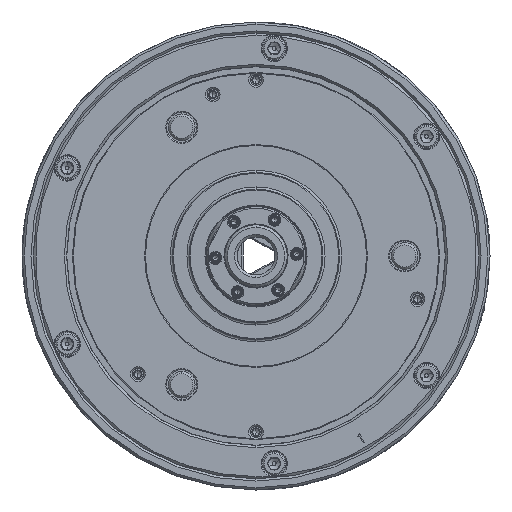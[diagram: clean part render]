
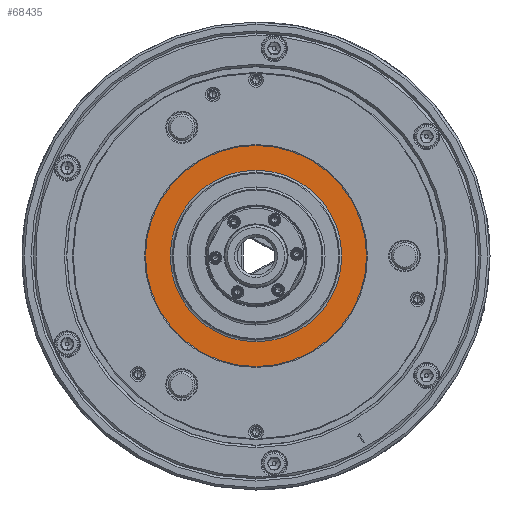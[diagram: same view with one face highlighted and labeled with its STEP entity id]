
A CAD part, left-side view. The second image highlights one B-rep face of the part: STEP entity #68435.
In plain terms, the highlighted planar face has unit normal (-1, 0, 0) as drawn and (0, 0, -1) by its records, which use the part's own axes.
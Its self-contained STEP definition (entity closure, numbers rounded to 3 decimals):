
#19212 = CARTESIAN_POINT ( 'NONE',  ( 0., 0., -104.8 ) ) ;
#21460 = VERTEX_POINT ( 'NONE', #107401 ) ;
#24448 = DIRECTION ( 'NONE',  ( 1., 0., 0. ) ) ;
#24775 = AXIS2_PLACEMENT_3D ( 'NONE', #96357, #47530, #179574 ) ;
#35657 = CARTESIAN_POINT ( 'NONE',  ( 49.616, 0., -104.8 ) ) ;
#35798 = ORIENTED_EDGE ( 'NONE', *, *, #157604, .F. ) ;
#47530 = DIRECTION ( 'NONE',  ( 0., 0., -1. ) ) ;
#54550 = CARTESIAN_POINT ( 'NONE',  ( 0., 0., -104.8 ) ) ;
#58001 = CIRCLE ( 'NONE', #135867, 49.616 ) ;
#63780 = CIRCLE ( 'NONE', #24775, 49.616 ) ;
#68435 = ADVANCED_FACE ( 'NONE', ( #209688, #139862 ), #122131, .F. ) ;
#81202 = EDGE_LOOP ( 'NONE', ( #35798, #214762 ) ) ;
#86930 = DIRECTION ( 'NONE',  ( 0., 0., -1. ) ) ;
#96357 = CARTESIAN_POINT ( 'NONE',  ( 0., 0., -104.8 ) ) ;
#96743 = CIRCLE ( 'NONE', #132191, 38.5 ) ;
#107226 = ORIENTED_EDGE ( 'NONE', *, *, #181265, .T. ) ;
#107401 = CARTESIAN_POINT ( 'NONE',  ( -49.616, 0., -104.8 ) ) ;
#122131 = PLANE ( 'NONE',  #187436 ) ;
#124917 = EDGE_CURVE ( 'NONE', #172673, #211418, #139327, .T. ) ;
#132191 = AXIS2_PLACEMENT_3D ( 'NONE', #54550, #172101, #206471 ) ;
#133602 = CARTESIAN_POINT ( 'NONE',  ( 0., 0., -104.8 ) ) ;
#134663 = DIRECTION ( 'NONE',  ( -1., 0., 0. ) ) ;
#135674 = AXIS2_PLACEMENT_3D ( 'NONE', #133602, #167975, #205609 ) ;
#135867 = AXIS2_PLACEMENT_3D ( 'NONE', #19212, #86930, #134663 ) ;
#139327 = CIRCLE ( 'NONE', #135674, 38.5 ) ;
#139862 = FACE_OUTER_BOUND ( 'NONE', #159840, .T. ) ;
#140442 = EDGE_CURVE ( 'NONE', #182657, #21460, #63780, .T. ) ;
#140955 = CARTESIAN_POINT ( 'NONE',  ( 0., 0., -104.8 ) ) ;
#149468 = CARTESIAN_POINT ( 'NONE',  ( 38.5, 0., -104.8 ) ) ;
#155073 = ORIENTED_EDGE ( 'NONE', *, *, #140442, .T. ) ;
#157604 = EDGE_CURVE ( 'NONE', #211418, #172673, #96743, .T. ) ;
#159840 = EDGE_LOOP ( 'NONE', ( #107226, #155073 ) ) ;
#167975 = DIRECTION ( 'NONE',  ( 0., 0., -1. ) ) ;
#172101 = DIRECTION ( 'NONE',  ( 0., 0., -1. ) ) ;
#172673 = VERTEX_POINT ( 'NONE', #149468 ) ;
#173152 = DIRECTION ( 'NONE',  ( 0., 0., 1. ) ) ;
#179574 = DIRECTION ( 'NONE',  ( -1., 0., 0. ) ) ;
#181265 = EDGE_CURVE ( 'NONE', #21460, #182657, #58001, .T. ) ;
#182657 = VERTEX_POINT ( 'NONE', #35657 ) ;
#187436 = AXIS2_PLACEMENT_3D ( 'NONE', #140955, #173152, #24448 ) ;
#205609 = DIRECTION ( 'NONE',  ( -1., 0., 0. ) ) ;
#206471 = DIRECTION ( 'NONE',  ( -1., 0., 0. ) ) ;
#209688 = FACE_BOUND ( 'NONE', #81202, .T. ) ;
#211418 = VERTEX_POINT ( 'NONE', #213684 ) ;
#213684 = CARTESIAN_POINT ( 'NONE',  ( -38.5, 0., -104.8 ) ) ;
#214762 = ORIENTED_EDGE ( 'NONE', *, *, #124917, .F. ) ;
